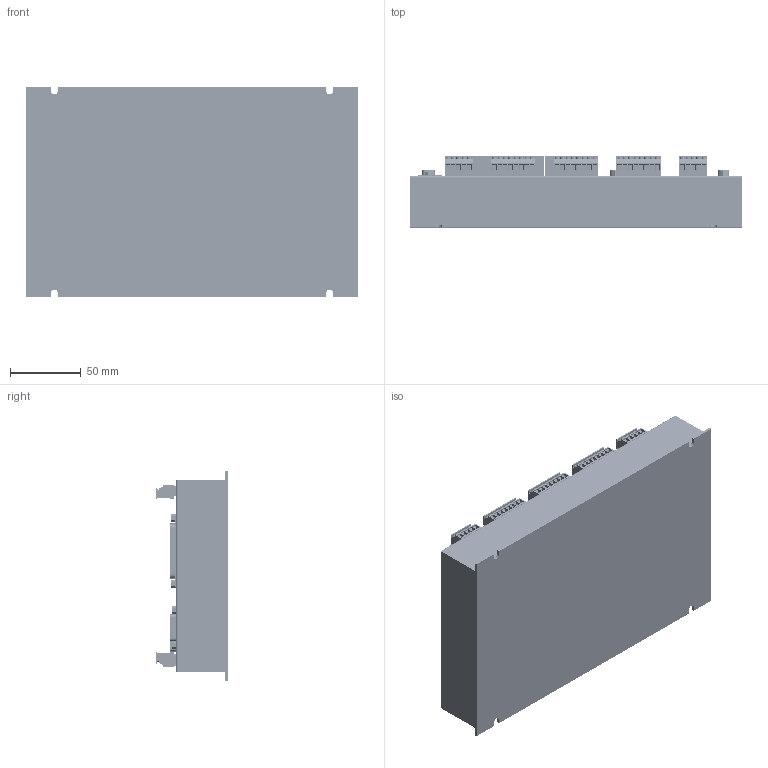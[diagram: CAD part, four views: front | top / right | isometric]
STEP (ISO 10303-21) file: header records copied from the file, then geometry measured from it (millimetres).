
FILE_DESCRIPTION((''),'2;1');
FILE_NAME('ZMC408SCAN3D00_ASM','2025-03-12T11:58:10',('admin'),(''),'CREO PARAMETRIC BY PTC INC, 2021063','CREO PARAMETRIC BY PTC INC, 2021063','');
FILE_SCHEMA(('CONFIG_CONTROL_DESIGN','SHAPE_APPEARANCE_LAYERS_GROUPS'));
Products named in the file (158): 408-1_26PIN-5-SOLI0001; 408-1_4PIN-1-SOLI0001; 10PIN-1-SOLID16000; _1-SOLID100; 5PIN-1-SOLID9000; 5PIN-2-SOLID5000; 5PIN-1-SOLID8000; _1-SOLID200; 8PIN-2-SOLID5000; 8PIN-1-SOLID1000; 8PIN-1-SOLID14000; _1-SOLID500; 10PIN-1-SOLID18000; 8PIN-1-SOLID7000; 10PIN-1-SOLID7000; 5PIN-2-SOLID8000; 408-1_-328890001; 10PIN-1-SOLID12000; 408-1_-340520001; 408-1_5-346070001; 408-1_15PIN-1-SOLI0001; 408-1_8-357430001; 8PIN-4-SOLID12000; 5PIN-1-SOLID3000; 8PIN-2-SOLID8000; 8PIN-4-SOLID13000; 5PIN-1-SOLID4000; 10PIN-1-SOLID10000; M3X4-1-SOLID10001; 10PIN-1-SOLID20000; _1-SOLID300; 8PIN-1-SOLID9000; 5PIN-1-SOLID6000; 5PIN-1-SOLID11000; 8PIN-2-SOLID6000; 8PIN-1-SOLID3000; 408-1_26PIN-1-SOLI0001; 8PIN-4-SOLID17000; 8PIN-1-SOLID8000; 5PIN-1-SOLID10000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
Assembly tree (157 placements, depth 3):
  ZMC408SCAN3D00_ASM
    408_ASM
      408-1_26PIN-5-SOLI0001
      408-1_4PIN-1-SOLI0001
      10PIN-1-SOLID16000
      _1-SOLID100
      5PIN-1-SOLID9000
      5PIN-2-SOLID5000
      5PIN-1-SOLID8000
      _1-SOLID200
      8PIN-2-SOLID5000
      8PIN-1-SOLID1000
      8PIN-1-SOLID14000
      _1-SOLID500
      10PIN-1-SOLID18000
      8PIN-1-SOLID7000
      10PIN-1-SOLID7000
      5PIN-2-SOLID8000
      408-1_-328890001
      10PIN-1-SOLID12000
      408-1_-340520001
      408-1_5-346070001
      408-1_15PIN-1-SOLI0001
      408-1_8-357430001
      8PIN-4-SOLID12000
      5PIN-1-SOLID3000
      8PIN-2-SOLID8000
      8PIN-4-SOLID13000
      5PIN-1-SOLID4000
      10PIN-1-SOLID10000
      M3X4-1-SOLID10001
      10PIN-1-SOLID20000
      _1-SOLID300
      8PIN-1-SOLID9000
      5PIN-1-SOLID6000
      5PIN-1-SOLID11000
      8PIN-2-SOLID6000
      8PIN-1-SOLID3000
      408-1_26PIN-1-SOLI0001
      8PIN-4-SOLID17000
      8PIN-1-SOLID8000
      5PIN-1-SOLID10000
      8PIN-2-SOLID15000
      8PIN-4-SOLID16000
      408-1_-487190001
      8PIN-3-SOLID17000
      408-1_5-498370001
      4PIN-1-SOLID6000
      5PIN-2-SOLID6000
      4PIN-1-SOLID3000
      8PIN-4-SOLID11000
      8PIN-2-SOLID11000
      10PIN-1-SOLID3000
      5PIN-2-SOLID9000
      _1-SOLID100
      5PIN-2-SOLID3000
      8PIN-3-SOLID6000
      8PIN-3-SOLID7000
      408-1_-1388750001
      8PIN-4-SOLID1000
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Bounding box: 235 x 50.5 x 149 mm (x, y, z)
Volume: 268921.4 mm3; surface area: 319076 mm2
Topology: 156 solids, 156 shells, 9012 faces, 22782 edges, 14883 vertices
Faces by surface type: plane 6377, cylinder 1064, bspline 995, cone 486, sphere 50, torus 20, extrusion 20
Entity records: 359532 total; most frequent: CARTESIAN_POINT 127820, ORIENTED_EDGE 45336, DIRECTION 40798, EDGE_CURVE 22668, VECTOR 17610, LINE 17590, VERTEX_POINT 14975, AXIS2_PLACEMENT_3D 11594
